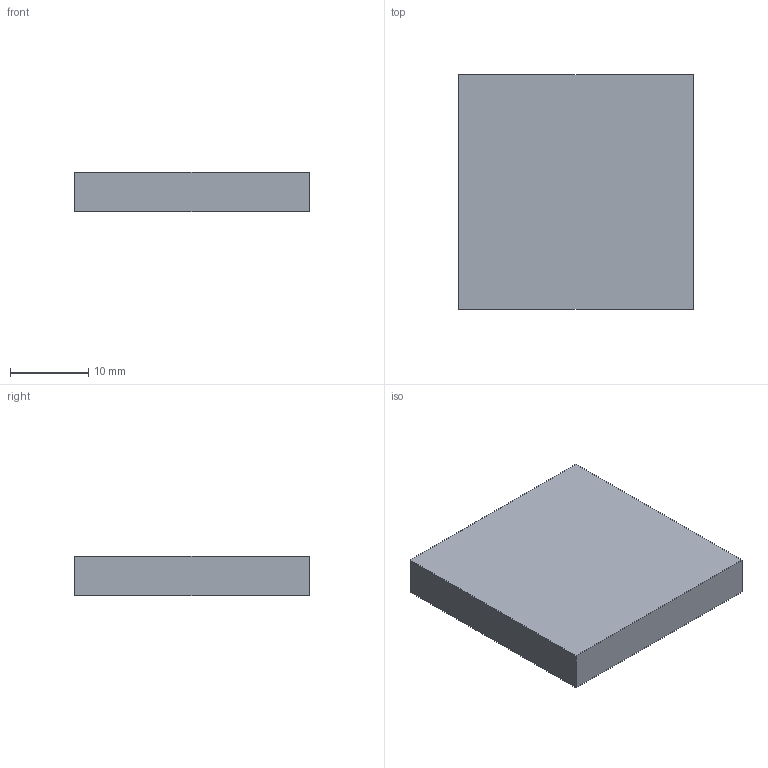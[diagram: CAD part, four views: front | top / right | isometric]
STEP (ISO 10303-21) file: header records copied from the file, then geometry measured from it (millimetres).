
FILE_DESCRIPTION((''),'2;1');
FILE_NAME('C:\Documents and Settings\AMS8\デスクトップ\2013from西村作業用\既存3D\エンドキャップiges\ECP-3030-6.stp','2013-08-06T13:45:32',('AMS8'),(''),'Autodesk Inventor 2008','Autodesk Inventor 2008','');
FILE_SCHEMA(('AUTOMOTIVE_DESIGN { 1 0 10303 214 1 1 1 1 }'));
Length unit declared in the file: millimetre
Products named in the file (1): ECP-3030-6
Bounding box: 30 x 30 x 5 mm (x, y, z)
Volume: 4500 mm3; surface area: 2400 mm2
Topology: 1 solids, 1 shells, 6 faces, 12 edges, 8 vertices
Faces by surface type: plane 6
Entity records: 182 total; most frequent: CARTESIAN_POINT 27, DIRECTION 26, ORIENTED_EDGE 24, VECTOR 12, LINE 12, EDGE_CURVE 12, VERTEX_POINT 8, AXIS2_PLACEMENT_3D 7
